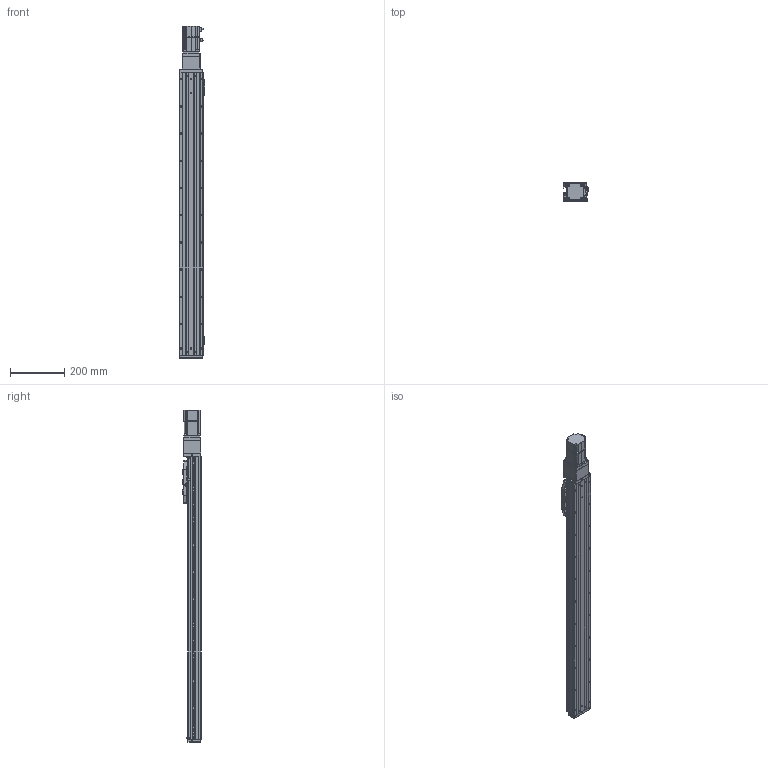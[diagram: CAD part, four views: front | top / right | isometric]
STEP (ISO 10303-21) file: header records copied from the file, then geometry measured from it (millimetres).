
FILE_DESCRIPTION (( 'STEP AP203' ), '1' );
FILE_NAME ('CTHA86-850-BC-M20-C4L.step', '2022-04-26T00:48:28', ( '微软用户' ), ( '微软中国' ), 'SwSTEP 2.0', 'SolidWorks 2020', '' );
FILE_SCHEMA (( 'CONFIG_CONTROL_DESIGN' ));
Length unit declared in the file: millimetre
Products named in the file (22): CTHA86-030; KTHA86-001_1040; GBT77-2000 M3×3; CTHA86-027; CTHA86-850-BC-M20-C4L; KTHA86-004; GBT 70.1-M3×20; CTHA86-006-1_CTHA86-006-2; KTHA86-005; GBT70.1 M5℅16; _X2_4E0983F1_X0_200W_1; GB¨uT 70.2-M3¡Á5_M3¡Á6; GBT 70.1-M3×16; GBT 70.3-M3℅6; EE_SX911P_R; GBT 70.1-M3℅6; CTHA86-002; CTHA60-017; CTHA60-016; CTHA86-031; CTHA60-021; CTHA86-013
Assembly tree (65 placements, depth 2):
  CTHA86-850-BC-M20-C4L
    KTHA86-001_1040
    KTHA86-004
    KTHA86-005
    GB¨uT 70.2-M3¡Á5_M3¡Á6  x10
    EE_SX911P_R  x3
    CTHA60-017  x3
    CTHA60-021  x2
    GBT77-2000 M3×3  x6
    GBT 70.1-M3×20
    GBT70.1 M5℅16  x14
    GBT 70.1-M3×16
    GBT 70.1-M3℅6  x6
    CTHA60-016  x2
    CTHA86-013
    CTHA86-027
    CTHA86-006-1_CTHA86-006-2
    _X2_4E0983F1_X0_200W_1
    GBT 70.3-M3℅6  x6
    CTHA86-002
    CTHA86-031
    CTHA86-030  x2
Bounding box: 93.82 x 68 x 1220.5 mm (x, y, z)
Volume: 4024073 mm3; surface area: 702208 mm2
Topology: 67 solids, 67 shells, 2774 faces, 6639 edges, 4084 vertices
Faces by surface type: plane 1452, cylinder 715, cone 394, torus 120, bspline 69, sphere 24
Entity records: 49567 total; most frequent: CARTESIAN_POINT 9184, DIRECTION 7818, ORIENTED_EDGE 7534, EDGE_CURVE 3767, AXIS2_PLACEMENT_3D 2654, VECTOR 2510, LINE 2510, VERTEX_POINT 2362
